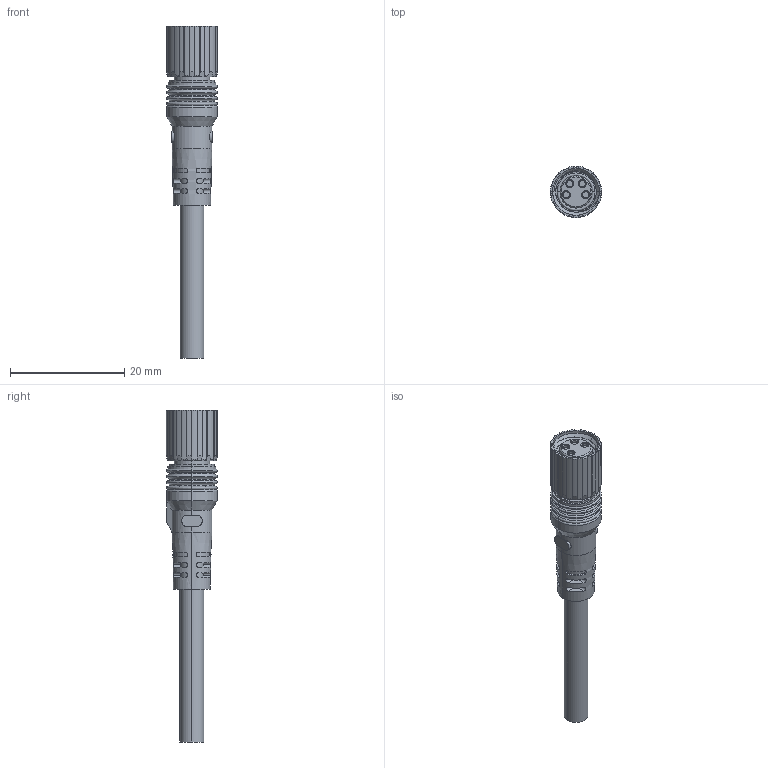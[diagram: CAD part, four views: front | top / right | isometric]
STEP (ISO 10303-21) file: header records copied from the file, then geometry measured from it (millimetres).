
FILE_DESCRIPTION (( 'STEP AP214' ), '1' );
FILE_NAME ('CM08-P4S-XXX.STEP', '2026-02-05T08:52:09', ( '' ), ( '' ), 'SwSTEP 2.0', 'SolidWorks 2024', '' );
FILE_SCHEMA (( 'AUTOMOTIVE_DESIGN' ));
Length unit declared in the file: millimetre
Products named in the file (1): CM08-P4S-XXX
Bounding box: 9 x 8.97 x 58.2 mm (x, y, z)
Volume: 1733.1 mm3; surface area: 1797.7 mm2
Topology: 2 solids, 12 shells, 297 faces, 701 edges, 448 vertices
Faces by surface type: cylinder 141, plane 97, torus 34, cone 22, bspline 3
Entity records: 9840 total; most frequent: CARTESIAN_POINT 3029, DIRECTION 1439, ORIENTED_EDGE 1402, EDGE_CURVE 701, AXIS2_PLACEMENT_3D 588, VERTEX_POINT 448, EDGE_LOOP 319, FACE_OUTER_BOUND 297
